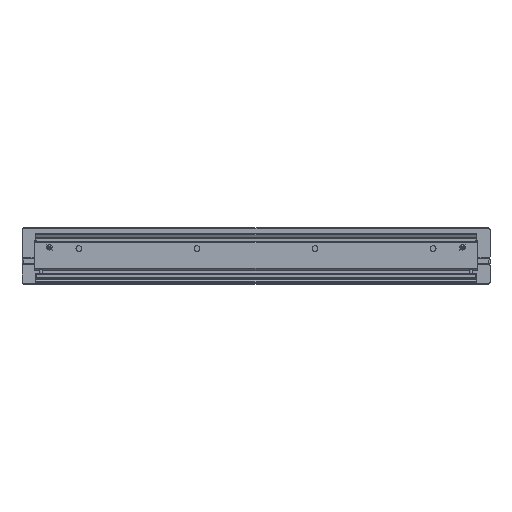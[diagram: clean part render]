
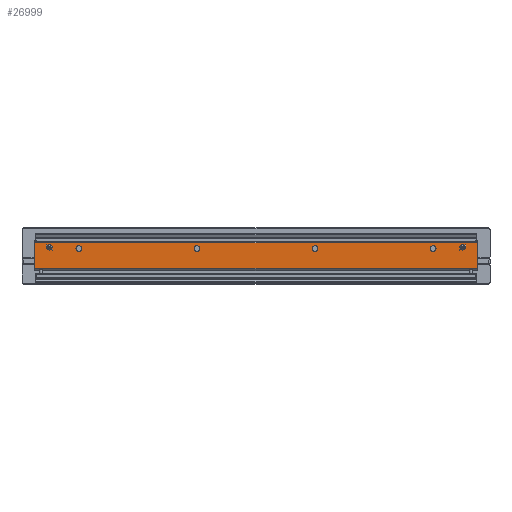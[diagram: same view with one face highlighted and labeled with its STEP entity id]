
A CAD part, top view. The second image highlights one B-rep face of the part: STEP entity #26999.
In plain terms, the highlighted planar face has unit normal (0, 0, 1).
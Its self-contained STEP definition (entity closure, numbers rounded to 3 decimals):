
#141 = CIRCLE ( 'NONE', #21773, 5. ) ;
#362 = CARTESIAN_POINT ( 'NONE',  ( -300., -5.8, 0. ) ) ;
#664 = EDGE_CURVE ( 'NONE', #2061, #21005, #22990, .T. ) ;
#764 = CARTESIAN_POINT ( 'NONE',  ( 300., -15.8, 0. ) ) ;
#836 = VERTEX_POINT ( 'NONE', #3379 ) ;
#1057 = VERTEX_POINT ( 'NONE', #29427 ) ;
#1749 = CARTESIAN_POINT ( 'NONE',  ( 375., -44., 0. ) ) ;
#1874 = EDGE_CURVE ( 'NONE', #836, #14328, #141, .T. ) ;
#2061 = VERTEX_POINT ( 'NONE', #5876 ) ;
#2228 = VERTEX_POINT ( 'NONE', #6322 ) ;
#2364 = CARTESIAN_POINT ( 'NONE',  ( 375., -1., 0. ) ) ;
#2550 = CARTESIAN_POINT ( 'NONE',  ( -375., -1., 0. ) ) ;
#2638 = CARTESIAN_POINT ( 'NONE',  ( 375., -1., 0. ) ) ;
#2722 = CARTESIAN_POINT ( 'NONE',  ( 100., -10.8, 0. ) ) ;
#3197 = PLANE ( 'NONE',  #7245 ) ;
#3379 = CARTESIAN_POINT ( 'NONE',  ( -300., -15.8, 0. ) ) ;
#3476 = DIRECTION ( 'NONE',  ( 0., 1., 0. ) ) ;
#3498 = CARTESIAN_POINT ( 'NONE',  ( 100., -5.8, 0. ) ) ;
#3873 = EDGE_CURVE ( 'NONE', #10675, #24149, #23177, .T. ) ;
#4346 = CIRCLE ( 'NONE', #28418, 5. ) ;
#4604 = DIRECTION ( 'NONE',  ( 0., 0., -1. ) ) ;
#4828 = CIRCLE ( 'NONE', #5364, 5. ) ;
#5237 = VERTEX_POINT ( 'NONE', #3498 ) ;
#5304 = ORIENTED_EDGE ( 'NONE', *, *, #23681, .F. ) ;
#5364 = AXIS2_PLACEMENT_3D ( 'NONE', #2722, #18384, #23050 ) ;
#5484 = DIRECTION ( 'NONE',  ( 0., 1., 0. ) ) ;
#5520 = ORIENTED_EDGE ( 'NONE', *, *, #13737, .T. ) ;
#5721 = CARTESIAN_POINT ( 'NONE',  ( -300., -10.8, 0. ) ) ;
#5758 = EDGE_CURVE ( 'NONE', #2061, #10675, #18895, .T. ) ;
#5783 = CARTESIAN_POINT ( 'NONE',  ( -100., -10.8, 0. ) ) ;
#5797 = CARTESIAN_POINT ( 'NONE',  ( -375., -44., 0. ) ) ;
#5876 = CARTESIAN_POINT ( 'NONE',  ( 375., -1., 0. ) ) ;
#6322 = CARTESIAN_POINT ( 'NONE',  ( -100., -15.8, 0. ) ) ;
#7207 = DIRECTION ( 'NONE',  ( 0., -1., 0. ) ) ;
#7245 = AXIS2_PLACEMENT_3D ( 'NONE', #24422, #12502, #7851 ) ;
#7495 = CARTESIAN_POINT ( 'NONE',  ( -375., -1., 0. ) ) ;
#7551 = DIRECTION ( 'NONE',  ( 0., 0., -1. ) ) ;
#7699 = EDGE_CURVE ( 'NONE', #1057, #2228, #19928, .T. ) ;
#7851 = DIRECTION ( 'NONE',  ( 0., 1., 0. ) ) ;
#7871 = ORIENTED_EDGE ( 'NONE', *, *, #7699, .T. ) ;
#8234 = EDGE_CURVE ( 'NONE', #5237, #17334, #29579, .T. ) ;
#8992 = EDGE_LOOP ( 'NONE', ( #18847, #5520 ) ) ;
#9200 = CARTESIAN_POINT ( 'NONE',  ( -300., -10.8, 0. ) ) ;
#9474 = ORIENTED_EDGE ( 'NONE', *, *, #14499, .T. ) ;
#9777 = LINE ( 'NONE', #18978, #12066 ) ;
#10121 = AXIS2_PLACEMENT_3D ( 'NONE', #29078, #14921, #19599 ) ;
#10427 = CIRCLE ( 'NONE', #29680, 5. ) ;
#10675 = VERTEX_POINT ( 'NONE', #7495 ) ;
#10901 = AXIS2_PLACEMENT_3D ( 'NONE', #5783, #26710, #5484 ) ;
#11365 = DIRECTION ( 'NONE',  ( 0., 1., 0. ) ) ;
#12027 = DIRECTION ( 'NONE',  ( 0., 0., -1. ) ) ;
#12066 = VECTOR ( 'NONE', #12329, 1000. ) ;
#12329 = DIRECTION ( 'NONE',  ( -1., 0., 0. ) ) ;
#12502 = DIRECTION ( 'NONE',  ( 0., 0., -1. ) ) ;
#12517 = ORIENTED_EDGE ( 'NONE', *, *, #8234, .T. ) ;
#12623 = EDGE_LOOP ( 'NONE', ( #14575, #5304, #17990, #22502 ) ) ;
#12758 = EDGE_LOOP ( 'NONE', ( #12517, #15449 ) ) ;
#13009 = CARTESIAN_POINT ( 'NONE',  ( 100., -15.8, 0. ) ) ;
#13737 = EDGE_CURVE ( 'NONE', #16177, #16915, #10427, .T. ) ;
#14095 = EDGE_LOOP ( 'NONE', ( #21562, #18907 ) ) ;
#14328 = VERTEX_POINT ( 'NONE', #362 ) ;
#14499 = EDGE_CURVE ( 'NONE', #2228, #1057, #25837, .T. ) ;
#14575 = ORIENTED_EDGE ( 'NONE', *, *, #3873, .T. ) ;
#14621 = FACE_OUTER_BOUND ( 'NONE', #12623, .T. ) ;
#14921 = DIRECTION ( 'NONE',  ( 0., 0., -1. ) ) ;
#15449 = ORIENTED_EDGE ( 'NONE', *, *, #23381, .T. ) ;
#15621 = AXIS2_PLACEMENT_3D ( 'NONE', #23493, #12027, #21236 ) ;
#15875 = CIRCLE ( 'NONE', #10121, 5. ) ;
#16177 = VERTEX_POINT ( 'NONE', #764 ) ;
#16622 = DIRECTION ( 'NONE',  ( -1., 0., 0. ) ) ;
#16915 = VERTEX_POINT ( 'NONE', #29471 ) ;
#17301 = DIRECTION ( 'NONE',  ( 0., 1., 0. ) ) ;
#17334 = VERTEX_POINT ( 'NONE', #13009 ) ;
#17990 = ORIENTED_EDGE ( 'NONE', *, *, #664, .F. ) ;
#18003 = CARTESIAN_POINT ( 'NONE',  ( 300., -10.8, 0. ) ) ;
#18325 = DIRECTION ( 'NONE',  ( 0., -1., 0. ) ) ;
#18384 = DIRECTION ( 'NONE',  ( 0., 0., -1. ) ) ;
#18686 = DIRECTION ( 'NONE',  ( 0., 0., -1. ) ) ;
#18847 = ORIENTED_EDGE ( 'NONE', *, *, #27065, .T. ) ;
#18895 = LINE ( 'NONE', #2638, #22806 ) ;
#18907 = ORIENTED_EDGE ( 'NONE', *, *, #1874, .T. ) ;
#18978 = CARTESIAN_POINT ( 'NONE',  ( 375., -44., 0. ) ) ;
#19599 = DIRECTION ( 'NONE',  ( 0., 1., 0. ) ) ;
#19928 = CIRCLE ( 'NONE', #21385, 5. ) ;
#21005 = VERTEX_POINT ( 'NONE', #1749 ) ;
#21236 = DIRECTION ( 'NONE',  ( 0., 1., 0. ) ) ;
#21385 = AXIS2_PLACEMENT_3D ( 'NONE', #28504, #7551, #3476 ) ;
#21562 = ORIENTED_EDGE ( 'NONE', *, *, #27415, .T. ) ;
#21563 = FACE_BOUND ( 'NONE', #12758, .T. ) ;
#21672 = DIRECTION ( 'NONE',  ( 0., 0., -1. ) ) ;
#21773 = AXIS2_PLACEMENT_3D ( 'NONE', #9200, #18686, #27882 ) ;
#22147 = FACE_BOUND ( 'NONE', #8992, .T. ) ;
#22271 = EDGE_LOOP ( 'NONE', ( #7871, #9474 ) ) ;
#22502 = ORIENTED_EDGE ( 'NONE', *, *, #5758, .T. ) ;
#22806 = VECTOR ( 'NONE', #16622, 1000. ) ;
#22990 = LINE ( 'NONE', #2364, #26166 ) ;
#23050 = DIRECTION ( 'NONE',  ( 0., 1., 0. ) ) ;
#23177 = LINE ( 'NONE', #2550, #24529 ) ;
#23381 = EDGE_CURVE ( 'NONE', #17334, #5237, #4828, .T. ) ;
#23493 = CARTESIAN_POINT ( 'NONE',  ( 100., -10.8, 0. ) ) ;
#23681 = EDGE_CURVE ( 'NONE', #21005, #24149, #9777, .T. ) ;
#23817 = FACE_BOUND ( 'NONE', #14095, .T. ) ;
#24149 = VERTEX_POINT ( 'NONE', #5797 ) ;
#24422 = CARTESIAN_POINT ( 'NONE',  ( 375., -1., 0. ) ) ;
#24529 = VECTOR ( 'NONE', #7207, 1000. ) ;
#25837 = CIRCLE ( 'NONE', #10901, 5. ) ;
#26166 = VECTOR ( 'NONE', #18325, 1000. ) ;
#26710 = DIRECTION ( 'NONE',  ( 0., 0., -1. ) ) ;
#26999 = ADVANCED_FACE ( 'NONE', ( #23817, #28938, #21563, #22147, #14621 ), #3197, .F. ) ;
#27065 = EDGE_CURVE ( 'NONE', #16915, #16177, #15875, .T. ) ;
#27415 = EDGE_CURVE ( 'NONE', #14328, #836, #4346, .T. ) ;
#27882 = DIRECTION ( 'NONE',  ( 0., 1., 0. ) ) ;
#28418 = AXIS2_PLACEMENT_3D ( 'NONE', #5721, #21672, #17301 ) ;
#28504 = CARTESIAN_POINT ( 'NONE',  ( -100., -10.8, 0. ) ) ;
#28938 = FACE_BOUND ( 'NONE', #22271, .T. ) ;
#29078 = CARTESIAN_POINT ( 'NONE',  ( 300., -10.8, 0. ) ) ;
#29427 = CARTESIAN_POINT ( 'NONE',  ( -100., -5.8, 0. ) ) ;
#29471 = CARTESIAN_POINT ( 'NONE',  ( 300., -5.8, 0. ) ) ;
#29579 = CIRCLE ( 'NONE', #15621, 5. ) ;
#29680 = AXIS2_PLACEMENT_3D ( 'NONE', #18003, #4604, #11365 ) ;
